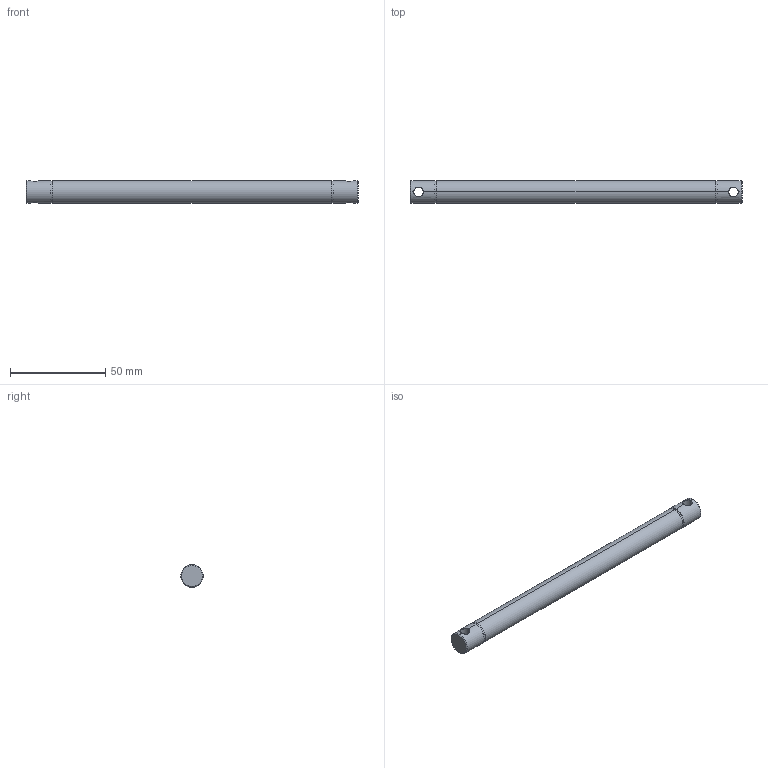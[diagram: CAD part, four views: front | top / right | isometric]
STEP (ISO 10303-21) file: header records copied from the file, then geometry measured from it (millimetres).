
FILE_DESCRIPTION (( 'STEP AP214' ), '1' );
FILE_NAME ('084.030.128.STEP', '2021-02-05T15:40:37', ( '' ), ( '' ), 'SwSTEP 2.0', 'SolidWorks 2018', '' );
FILE_SCHEMA (( 'AUTOMOTIVE_DESIGN' ));
Length unit declared in the file: millimetre
Products named in the file (1): 084.030.128
Bounding box: 174 x 12 x 12 mm (x, y, z)
Volume: 19188.7 mm3; surface area: 7076.3 mm2
Topology: 1 solids, 1 shells, 24 faces, 54 edges, 32 vertices
Faces by surface type: cylinder 14, plane 6, cone 4
Entity records: 976 total; most frequent: CARTESIAN_POINT 351, DIRECTION 120, ORIENTED_EDGE 108, EDGE_CURVE 54, AXIS2_PLACEMENT_3D 49, VERTEX_POINT 32, EDGE_LOOP 28, ADVANCED_FACE 24
